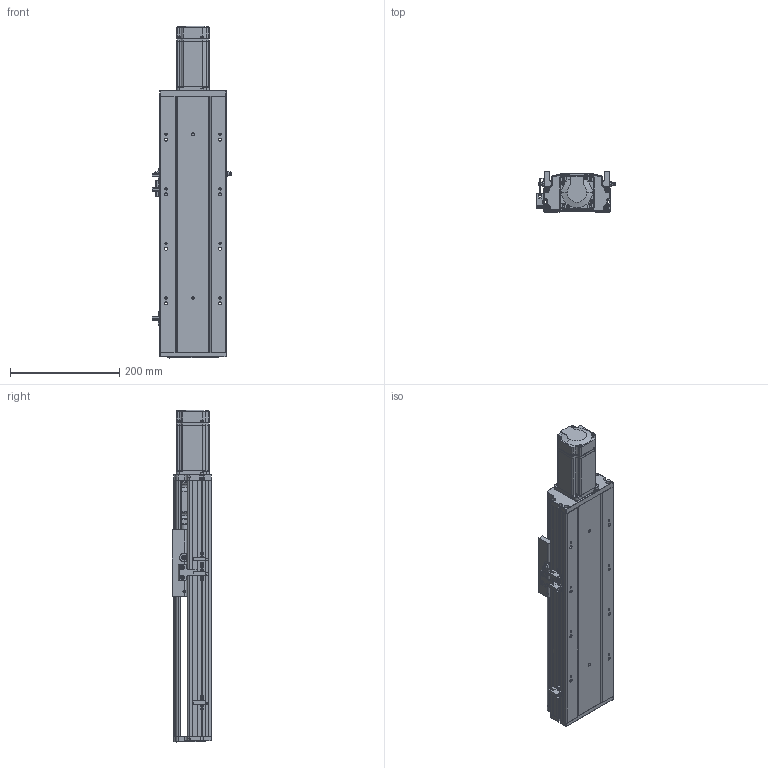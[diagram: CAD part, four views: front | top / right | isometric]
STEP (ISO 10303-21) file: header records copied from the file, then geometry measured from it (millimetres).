
FILE_DESCRIPTION (( 'STEP AP203' ), '1' );
FILE_NAME ('RYK120-L1610-S200-M40-C3-MK.STEP', '2026-03-09T08:07:19', ( '' ), ( '' ), 'SwSTEP 2.0', 'SolidWorks 2016', '' );
FILE_SCHEMA (( 'CONFIG_CONTROL_DESIGN' ));
Length unit declared in the file: millimetre
Products named in the file (17): RY120-16螺母油路-集中注油组合; 滅袉蝶18-10; RY120綴裔啣; 覜茼ん672; RY120QGB-1.8; 15; CB╱T 3762-1996[锥形润滑油嘴1-ZM10×1]_1-ZM10×1; 侂狟400W侜督萇儂; RYK120-300-MK-奻裔啣-啞_200; RYK170-薊粣ん芵隴裔啣; 2.10.1.C521-V1.0RY120臏賑輸16蹟譫-啞-JZZY-NRL-L1899; 滅袉蝶18-24; RY120电机端支撑座-压铸加工-M5; RY120外置感应片(140共用）; RYK120-300-MK-菁釱-啞_200; RYK120-L1610-S200-M40-C3-MK; 44-49-12-14
Assembly tree (21 placements, depth 3):
  RYK120-L1610-S200-M40-C3-MK
    RYK120-300-MK-菁釱-啞_200
    RYK120-300-MK-奻裔啣-啞_200
    RY120綴裔啣
    滅袉蝶18-24  x2
    滅袉蝶18-10  x2
    覜茼ん672  x3
    RY120外置感应片(140共用）
    RY120QGB-1.8
    RY120-16螺母油路-集中注油组合
      2.10.1.C521-V1.0RY120臏賑輸16蹟譫-啞-JZZY-NRL-L1899
      CB╱T 3762-1996[锥形润滑油嘴1-ZM10×1]_1-ZM10×1  x2
    RY120电机端支撑座-压铸加工-M5
    RYK170-薊粣ん芵隴裔啣
    44-49-12-14
    侂狟400W侜督萇儂
      15
Bounding box: 145.7 x 73 x 608.5 mm (x, y, z)
Volume: 1951436.8 mm3; surface area: 619875.9 mm2
Topology: 23 solids, 23 shells, 2396 faces, 6626 edges, 4251 vertices
Faces by surface type: plane 1171, cylinder 877, cone 221, bspline 127
Entity records: 78944 total; most frequent: CARTESIAN_POINT 22332, ORIENTED_EDGE 11832, DIRECTION 10899, EDGE_CURVE 5916, VERTEX_POINT 3863, AXIS2_PLACEMENT_3D 3702, LINE 3495, VECTOR 3495
